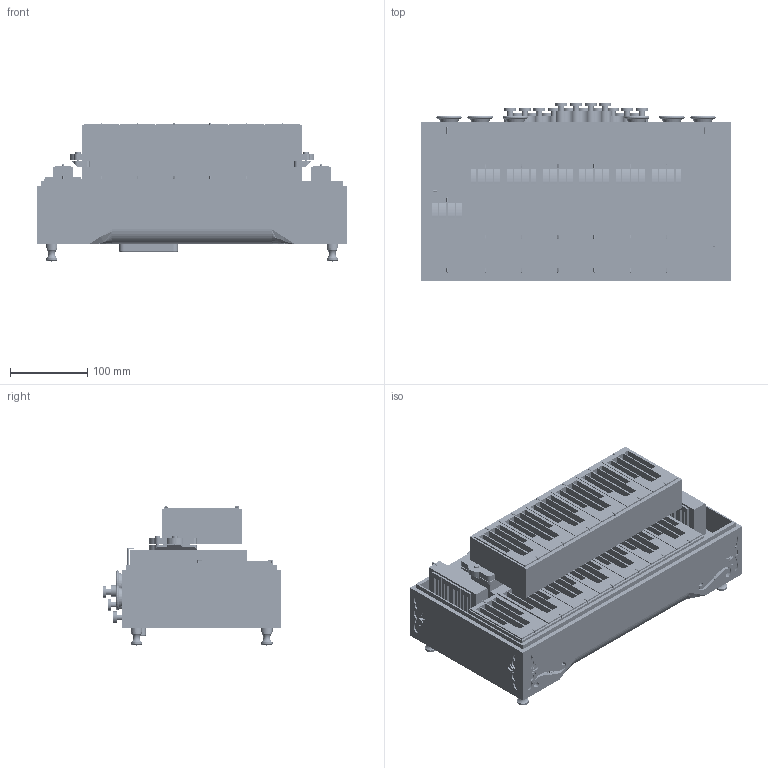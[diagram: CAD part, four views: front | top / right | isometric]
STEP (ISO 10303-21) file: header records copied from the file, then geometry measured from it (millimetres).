
FILE_DESCRIPTION(('Open CASCADE Model'),'2;1');
FILE_NAME('Open CASCADE Shape Model','2026-11-26T14:25:31',('Author'),( 'Open CASCADE'),'Open CASCADE STEP processor 7.9','Open CASCADE 7.9' ,'Unknown');
FILE_SCHEMA(('AUTOMOTIVE_DESIGN { 1 0 10303 214 1 1 1 1 }'));
Length unit declared in the file: millimetre
Products named in the file (582): Bassteil_Andreas; Front; Rueckteil; Seitenteil_links; Seitenteil_rechts; Bassboden; Horn_1; Horn_2; Horn_3; Horn_4; Horn_5; Horn_6; Frontblende_R2; Frontblende_R3; Knopf_R1_125; Knopfzylinder_R1_125; Filzeinlage_R1_125; Knopf_R1_144; Knopfzylinder_R1_144; Filzeinlage_R1_144; Knopf_R1_163; Knopfzylinder_R1_163; Filzeinlage_R1_163; Knopf_R1_182; Knopfzylinder_R1_182; Filzeinlage_R1_182; Knopf_R1_201; Knopfzylinder_R1_201; Filzeinlage_R1_201; Knopf_R1_220; Knopfzylinder_R1_220; Filzeinlage_R1_220; Knopf_R1_239; Knopfzylinder_R1_239; Filzeinlage_R1_239; Knopf_R1_258; Knopfzylinder_R1_258; Filzeinlage_R1_258; Knopf_R1_277; Knopfzylinder_R1_277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
Assembly tree (581 placements, depth 2):
  Bassteil_Andreas
    Front
    Rueckteil
    Seitenteil_links
    Seitenteil_rechts
    Bassboden
    Horn_1
    Horn_2
    Horn_3
    Horn_4
    Horn_5
    Horn_6
    Frontblende_R2
    Frontblende_R3
    Knopf_R1_125
    Knopfzylinder_R1_125
    Filzeinlage_R1_125
    Knopf_R1_144
    Knopfzylinder_R1_144
    Filzeinlage_R1_144
    Knopf_R1_163
    Knopfzylinder_R1_163
    Filzeinlage_R1_163
    Knopf_R1_182
    Knopfzylinder_R1_182
    Filzeinlage_R1_182
    Knopf_R1_201
    Knopfzylinder_R1_201
    Filzeinlage_R1_201
    Knopf_R1_220
    Knopfzylinder_R1_220
    Filzeinlage_R1_220
    Knopf_R1_239
    Knopfzylinder_R1_239
    Filzeinlage_R1_239
    Knopf_R1_258
    Knopfzylinder_R1_258
    Filzeinlage_R1_258
    Knopf_R1_277
    Knopfzylinder_R1_277
    Filzeinlage_R1_277
    Knopf_R2_116
    Knopfzylinder_R2_116
    Filzeinlage_R2_116
    Knopf_R2_134
    Knopfzylinder_R2_134
    Filzeinlage_R2_134
    Knopf_R2_154
    Knopfzylinder_R2_154
    Filzeinlage_R2_154
    Knopf_R2_172
    Knopfzylinder_R2_172
    Filzeinlage_R2_172
    Knopf_R2_192
    Knopfzylinder_R2_192
    Filzeinlage_R2_192
    Knopf_R2_210
    Knopfzylinder_R2_210
    Filzeinlage_R2_210
    Knopf_R2_230
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Bounding box: 402 x 232 x 180.3 mm (x, y, z)
Volume: 2875667.5 mm3; surface area: 1893938.6 mm2
Topology: 582 solids, 582 shells, 21667 faces, 60966 edges, 40204 vertices
Faces by surface type: plane 19279, cylinder 1558, cone 378, sphere 295, revolution 126, bspline 29, torus 2
Full cylindrical faces by diameter (mm): 0.5 x140, 1 x1, 1.08 x1, 1.1 x39, 1.4 x70, 1.5 x128, 1.6 x50, 1.8 x86, 2 x1, 2.05 x3, 2.4 x234, 2.5 x87, 2.6 x4, 2.7 x4, 3 x11, 3.5 x9, 4 x122, 5 x4, 6 x2, 7 x3, 7.5 x46, 8 x8, 9.5 x8, 10 x31, 11 x18, 12 x32, 12.5 x4, 13 x4, 13.5 x8, 14 x4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
Entity records: 1583126 total; most frequent: CARTESIAN_POINT 350293, DIRECTION 225437, LINE 168431, VECTOR 168431, ORIENTED_EDGE 121190, PCURVE 121190, DEFINITIONAL_REPRESENTATION 121190, EDGE_CURVE 60595
